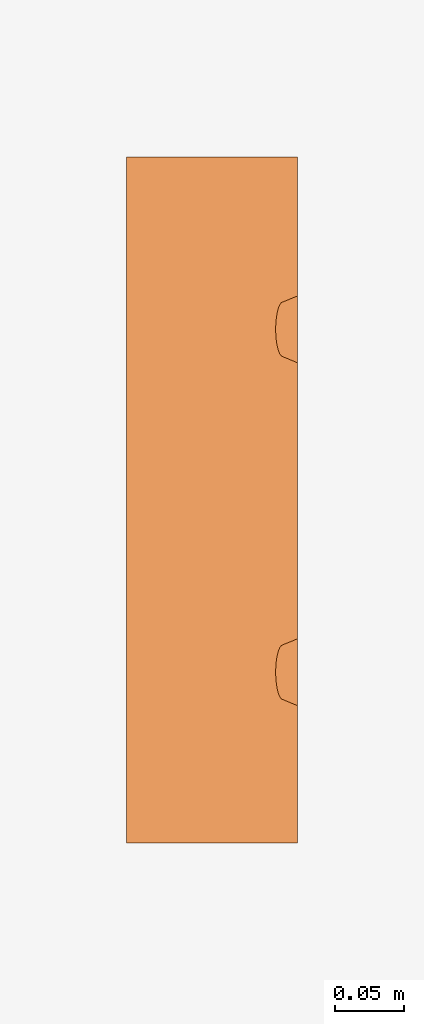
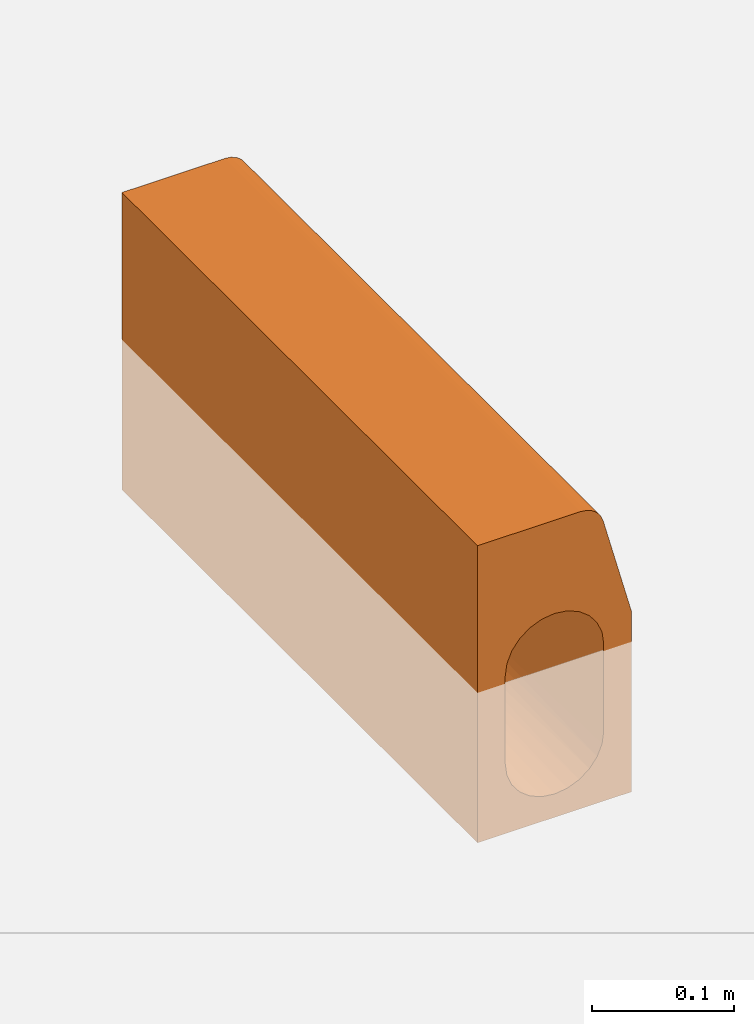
# One storey, part 2 of 2: 1 proxy.
"""IFC2X3 building model written with IfcOpenShell, lengths in millimetres."""

from ifc_helpers import new_model, entity, si_unit, converted_unit, direction, frame, origin, place, context, subcontext, project, spatial, faceted_brep, source, transform, mapped, material, element, save


model = new_model("IFC2X3")

# Units and contexts
model_context = context("Model", 3, precision=1e-06, world=origin(), true_north=direction((2.0, 6.12303176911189e-17, 1.0)))
context_of_model = context(None, 3, precision=1e-06, world=origin(), true_north=direction((2.0, 6.12303176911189e-17, 1.0)))
body_context = subcontext(model_context, "Body", "Model", "MODEL_VIEW")
ifc_project = project(units=[si_unit("LENGTHUNIT", "METRE", prefix="MILLI"), si_unit("AREAUNIT", "SQUARE_METRE", prefix="MILLI"), si_unit("VOLUMEUNIT", "CUBIC_METRE", prefix="MILLI"), converted_unit("PLANEANGLEUNIT", "DEGREE", entity("IfcRatioMeasure", 0.0174532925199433), si_unit("PLANEANGLEUNIT", "RADIAN"), dimensions=[0, 0, 0, 0, 0, 0, 0]), si_unit("TIMEUNIT", "SECOND")], contexts=[model_context, context_of_model])

# Site, building, storey
site_placement = place(None, origin())
site = spatial("IfcSite", under=ifc_project, at=site_placement, Name="Default", CompositionType="ELEMENT")
building_placement = place(site_placement, origin())
building = spatial("IfcBuilding", under=site, at=building_placement, CompositionType="ELEMENT")
storey_placement = place(building_placement, origin())
storey = spatial("IfcBuildingStorey", under=building, at=storey_placement, Name="Level 1", CompositionType="ELEMENT", Elevation=0.0)

# Proxy
ifc_material = material(Name="ACO Polymer Concrete.")
shared_shape = source(origin(), body_context, "Body", "Brep", [
    faceted_brep([(0.0, 354.453335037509, 65.0), (0.0, 352.209322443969, 45.0), (0.0, 396.645039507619, 45.0), (0.0, 394.453335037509, 65.0), (0.0, 357.13282696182, 75.0), (0.0, 355.134818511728, 70.176380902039), (0.0, 364.453335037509, 82.320508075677), (0.0, 393.77185156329, 70.1763809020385), (0.0, 391.773843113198, 75.0), (0.0, 388.59547066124, 79.1421356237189), (0.0, 379.629715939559, 84.3185165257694), (0.0, 369.276954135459, 84.3185165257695), (0.0, 374.453335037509, 85.0), (0.0, 384.453335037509, 82.3205080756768), (0.0, 360.311199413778, 79.1421356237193), (-62.5000096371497, 500.0, -130.0), (-28.2842808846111, 500.0, -98.2842712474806), (-20.0000096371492, 500.0, -104.641016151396), (-34.6410257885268, 500.0, -90.0), (-10.35277144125, 500.0, -108.637033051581), (-9.63714915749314e-06, 500.0, -110.0), (-40.0000096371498, 500.0, 5.0), (-40.0000096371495, 500.0, -70.0), (-62.5000096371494, 500.0, 125.0), (-38.6370426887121, 500.0, -80.3527618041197), (-38.6370426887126, 500.0, 15.3527618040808), (10.3527521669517, 500.0, -108.637033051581), (62.4999903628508, 500.0, -130.0), (19.9999903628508, 500.0, -104.641016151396), (28.2842616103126, 500.0, -98.28427124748), (34.6410065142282, 500.0, -90.0), (39.9999903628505, 500.0, -70.0), (62.4999903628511, 500.0, 25.0), (38.6370234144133, 500.0, -80.3527618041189), (39.9999903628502, 500.0, 5.0), (-28.2842808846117, 500.0, 33.2842712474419), (-34.6410257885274, 500.0, 25.0), (-20.0000096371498, 500.0, 39.6410161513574), (21.1258583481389, 500.0, 125.0), (-10.3527714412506, 500.0, 43.6370330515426), (39.478449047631, 500.0, 110.917561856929), (10.352752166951, 500.0, 43.6370330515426), (5.1763712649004, 500.0, 44.3185165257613), (-9.6371497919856e-06, 500.0, 45.0), (19.9999903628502, 500.0, 39.6410161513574), (15.1763712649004, 500.0, 41.6390246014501), (34.6410065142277, 500.0, 25.0), (31.4626340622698, 500.0, 29.1421356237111), (28.2842616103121, 500.0, 33.2842712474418), (39.3185068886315, 500.0, 10.1763809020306), (38.6370234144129, 500.0, 15.3527618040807), (36.6390149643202, 500.0, 20.1763809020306), (24.1421259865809, 500.0, 36.4626436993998), (30.6258583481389, 500.0, 122.454482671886), (34.5608871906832, 500.0, 119.435028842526), (37.5803410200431, 500.0, 115.499999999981), (26.0434202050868, 500.0, 124.352590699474), (-10.3527714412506, 0.0, 43.6370330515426), (-9.6371497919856e-06, 0.0, 45.0), (21.1258583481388, 0.0, 125.0), (-62.5000096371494, 0.0, 125.0), (10.352752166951, 0.0, 43.6370330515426), (39.4784490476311, 0.0, 110.917561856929), (-34.6410257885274, 0.0, 25.0), (-28.2842808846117, 0.0, 33.2842712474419), (-20.0000096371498, 0.0, 39.6410161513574), (-38.6370426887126, 0.0, 15.3527618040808), (15.1763712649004, 0.0, 41.6390246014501), (19.9999903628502, 0.0, 39.6410161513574), (30.6258583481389, 0.0, 122.454482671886), (26.0434202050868, 0.0, 124.352590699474), (34.5608871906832, 0.0, 119.435028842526), (37.5803410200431, 0.0, 115.499999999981), (28.2842616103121, 0.0, 33.2842712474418), (31.4626340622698, 0.0, 29.1421356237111), (62.4999903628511, 0.0, 25.0), (34.6410065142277, 0.0, 25.0), (36.6390149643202, 0.0, 20.1763809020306), (38.6370234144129, 0.0, 15.3527618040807), (39.3185068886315, 0.0, 10.1763809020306), (39.9999903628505, 0.0, 5.0), (24.142125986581, 0.0, 36.4626436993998), (-40.0000096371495, 0.0, -70.0), (-40.0000096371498, 0.0, 5.0), (-62.5000096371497, 0.0, -130.0), (-38.6370426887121, 0.0, -80.3527618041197), (-34.6410257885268, 0.0, -90.0), (-28.2842808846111, 0.0, -98.2842712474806), (-20.0000096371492, 0.0, -104.641016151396), (-10.35277144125, 0.0, -108.637033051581), (-9.63714915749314e-06, 0.0, -110.0), (62.4999903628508, 0.0, -130.0), (38.6370234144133, 0.0, -80.3527618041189), (34.6410065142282, 0.0, -90.0), (39.9999903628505, 0.0, -70.0), (10.3527521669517, 0.0, -108.637033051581), (28.2842616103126, 0.0, -98.28427124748), (19.9999903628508, 0.0, -104.641016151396), (39.9999903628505, 104.320227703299, 5.0), (39.9999903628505, 108.301552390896, 0.806065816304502), (39.9999903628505, 140.339432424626, 0.806065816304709), (39.9999903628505, 144.320757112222, 5.0), (39.9999903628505, 354.3202277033, 5.0), (39.9999903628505, 358.301552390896, 0.806065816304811), (39.9999903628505, 113.139955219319, -2.36093406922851), (39.9999903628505, 118.576562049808, -4.33155234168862), (39.9999903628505, 124.320492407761, -5.00035294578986), (39.9999903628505, 130.064422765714, -4.33155234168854), (39.9999903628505, 368.576562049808, -4.33155234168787), (39.9999903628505, 135.501029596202, -2.36093406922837), (39.9999903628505, 363.13995521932, -2.36093406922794), (39.9999903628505, 390.339432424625, 0.806065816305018), (39.9999903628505, 394.320757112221, 5.0), (39.9999903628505, 374.320492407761, -5.00035294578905), (39.9999903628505, 220.834780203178, -70.0), (39.9999903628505, 380.064422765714, -4.33155234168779), (39.9999903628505, 385.501029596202, -2.36093406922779), (36.9551716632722, 250.0, -85.3073372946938), (-39.2333192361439, 259.048058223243, -77.7940629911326), (-36.9551909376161, 250.0, -85.3073372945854), (39.2332999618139, 240.951941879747, -77.7940629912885), (31.7341239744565, 250.0, -94.3504571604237), (15.3073276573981, 250.0, -106.955181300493), (-5.2210573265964, 250.0, -109.657794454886), (-15.307346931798, 250.0, -106.955181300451), (5.22103805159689, 250.0, -109.657794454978), (24.3504475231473, 250.0, -101.734133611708), (-24.3504667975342, 250.0, -101.73413361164), (-31.7341432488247, 250.0, -94.3504571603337), (-40.0000096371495, 279.165219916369, -70.0), (-40.0000096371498, 220.83478055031, 5.0), (0.0, 104.453335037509, 65.0), (0.0, 102.209322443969, 45.0), (0.0, 146.645039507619, 45.0), (0.0, 144.453335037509, 65.0), (0.0, 107.13282696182, 75.0), (0.0, 105.134818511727, 70.1763809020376), (0.0, 114.453335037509, 82.320508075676), (0.0, 143.77185156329, 70.1763809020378), (0.0, 129.629715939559, 84.3185165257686), (0.0, 124.453335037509, 85.0), (0.0, 119.276954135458, 84.3185165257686), (0.0, 141.773843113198, 75.0), (0.0, 138.59547066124, 79.1421356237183), (0.0, 134.453335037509, 82.3205080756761), (0.0, 110.311199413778, 79.1421356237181), (39.6954785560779, 147.201210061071, 9.92627822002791), (62.4999903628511, 146.297049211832, 8.08197316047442), (62.4999903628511, 148.632737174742, 14.1760094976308), (38.6537235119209, 148.872914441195, 15.2902338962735), (62.4999903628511, 149.311585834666, 20.6669171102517), (62.4999903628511, 124.987762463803, -4.99144637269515), (62.4999903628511, 131.43319672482, -3.9671933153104), (62.4999903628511, 137.39391194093, -1.30963969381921), (62.4999903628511, 142.463695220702, 2.80010660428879), (36.8041709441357, 149.311585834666, 20.6669171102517), (62.4999903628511, 107.120951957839, 1.85644424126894), (62.4999903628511, 112.402818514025, -1.97690974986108), (62.4999903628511, 118.496854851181, -4.31259771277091), (39.7468589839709, 101.635498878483, 9.49293165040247), (62.4999903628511, 103.011205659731, 6.92622752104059), (62.4999903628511, 99.3293989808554, 19.3323769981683), (62.4999903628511, 100.35365203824, 12.8869427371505), (38.8848501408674, 99.9604934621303, 14.3791087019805), (37.3441059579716, 99.3293989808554, 19.3323769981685), (-24.3504667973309, 250.0, 36.734133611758), (-15.3073469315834, 250.0, 41.9551813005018), (-39.2392787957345, 258.370695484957, 12.7640038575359), (-36.9551909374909, 250.0, 20.30733729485), (-31.7341432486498, 250.0, 29.3504571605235), (14.0372744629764, 101.889153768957, 42.1464627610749), (9.54182317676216, 102.079758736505, 43.8452497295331), (28.9879182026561, 398.051522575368, 32.1653949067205), (25.7995367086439, 397.678681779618, 35.5676856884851), (18.5327257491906, 101.698548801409, 40.4476757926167), (39.6954785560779, 397.201210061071, 9.92627822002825), (-7.49088672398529, 249.427181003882, 44.2923244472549), (9.26194984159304, 396.764166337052, 43.9129298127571), (9.26194984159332, 146.764166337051, 43.9129298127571), (18.0204807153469, 397.115071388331, 40.7108096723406), (32.1762996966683, 398.424363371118, 28.7631041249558), (18.0204807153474, 147.11507138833, 40.7108096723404), (9.54182317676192, 352.079758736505, 43.8452497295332), (22.4931610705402, 101.393125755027, 37.7255605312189), (36.8041709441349, 399.311585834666, 20.6669171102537), (38.6537235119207, 398.872914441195, 15.2902338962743), (21.9100087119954, 397.396876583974, 38.1392476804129), (18.5327257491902, 351.698548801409, 40.4476757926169), (4.63097492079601, 396.704602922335, 44.4564649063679), (34.4902353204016, 398.867974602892, 24.7150106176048), (13.64121527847, 396.939618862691, 42.3118697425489), (29.6503505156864, 100.685095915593, 31.4151695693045), (26.4535963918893, 351.087702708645, 35.0034452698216), (25.7995367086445, 147.678681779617, 35.5676856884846), (26.4535963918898, 101.087702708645, 35.0034452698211), (32.847104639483, 100.28248912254, 27.8268938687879), (32.1762996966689, 148.424363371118, 28.763104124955), (35.0956052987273, 99.8059440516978, 23.5796354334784), (32.8471046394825, 350.28248912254, 27.8268938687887), (38.8848501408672, 349.96049346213, 14.3791087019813), (39.7468589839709, 351.635498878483, 9.49293165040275), (37.3441059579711, 349.329398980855, 19.33237699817), (21.1258583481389, 152.199845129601, 125.0), (62.4999903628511, 357.120951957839, 1.85644424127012), (62.4999903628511, 362.402818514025, -1.97690974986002), (62.4999903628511, 99.9653098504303, 25.0), (62.4999903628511, 349.329398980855, 19.3323769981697), (62.4999903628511, 349.96530985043, 25.0), (62.4999903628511, 148.836743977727, 25.0), (62.4999903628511, 350.35365203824, 12.8869427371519), (62.4999903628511, 353.011205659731, 6.92622752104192), (62.4999903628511, 374.987762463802, -4.99144637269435), (62.4999903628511, 368.496854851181, -4.31259771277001), (62.4999903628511, 381.43319672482, -3.96719331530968), (62.4999903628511, 387.39391194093, -1.30963969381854), (62.4999903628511, 392.463695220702, 2.80010660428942), (62.4999903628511, 398.632737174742, 14.1760094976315), (62.4999903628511, 396.297049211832, 8.08197316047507), (62.4999903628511, 398.836743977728, 25.0), (62.4999903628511, 399.311585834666, 20.6669171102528), (51.7820226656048, 104.453335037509, 65.0), (50.4995338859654, 105.034498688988, 69.7863132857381), (51.7820226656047, 144.453335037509, 65.0), (51.7820226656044, 354.453335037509, 65.0), (49.2915786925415, 142.162455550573, 74.2944634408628), (50.4995338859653, 143.87217138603, 69.7863132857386), (50.499533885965, 355.034498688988, 69.7863132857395), (49.2915786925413, 356.744214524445, 74.2944634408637), (49.2915786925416, 106.744214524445, 74.2944634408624), (48.2283590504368, 109.483120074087, 78.2624531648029), (47.3716654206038, 113.092040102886, 81.4596773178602), (46.771285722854, 117.361237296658, 83.7003248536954), (46.4621118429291, 122.042601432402, 84.8541774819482), (47.3716654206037, 135.814629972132, 81.4596773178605), (48.2283590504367, 139.423550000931, 78.2624531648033), (48.2283590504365, 359.483120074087, 78.2624531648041), (47.3716654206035, 363.092040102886, 81.4596773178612), (46.4621118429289, 372.042601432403, 84.8541774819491), (46.4621118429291, 126.864068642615, 84.8541774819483), (46.7712857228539, 131.545432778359, 83.7003248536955), (46.7712857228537, 367.361237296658, 83.7003248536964), (51.7820226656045, 394.453335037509, 65.0), (50.4995338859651, 393.87217138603, 69.7863132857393), (49.2915786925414, 392.162455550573, 74.2944634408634), (47.3716654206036, 385.814629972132, 81.4596773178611), (48.2283590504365, 389.423550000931, 78.2624531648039), (46.4621118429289, 376.864068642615, 84.8541774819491), (46.7712857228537, 381.54543277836, 83.7003248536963), (39.4784490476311, 423.900062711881, 110.917561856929), (32.6923254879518, 383.807890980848, 121.073713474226), (36.1995717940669, 348.576324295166, 117.566467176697), (38.1694726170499, 104.875634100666, 114.397333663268), (36.1995717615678, 151.423670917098, 117.566467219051), (28.3968435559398, 348.576326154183, 123.553711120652), (24.524901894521, 364.149902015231, 124.693488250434), (25.1444007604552, 238.971100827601, 124.570172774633), (38.0231925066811, 238.971095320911, 114.687928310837), (39.4784490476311, 304.399743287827, 110.917561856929), (38.3026441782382, 364.149900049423, 114.121454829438), (32.6923254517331, 116.192108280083, 121.073713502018), (35.4951440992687, 249.999998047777, 118.430753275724), (29.4139991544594, 250.0, 123.096979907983), (32.692325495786, 249.999999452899, 121.073713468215), (21.1258583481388, 423.900109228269, 125.0), (39.4784490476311, 152.199872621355, 110.917561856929), (28.3968435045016, 151.423674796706, 123.553711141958), (21.1258583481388, 304.39975384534, 125.0), (24.8258478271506, 104.875635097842, 124.636257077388)], [[[0, 1, 2, 3]], [[4, 5, 0, 6]], [[3, 7, 8, 9]], [[6, 0, 3, 10]], [[11, 6, 10, 12]], [[9, 13, 10, 3]], [[6, 14, 4]], [[15, 16, 17]], [[16, 15, 18]], [[17, 19, 15]], [[15, 19, 20]], [[21, 22, 15, 23]], [[24, 18, 15]], [[25, 21, 23]], [[22, 24, 15]], [[20, 26, 27, 15]], [[27, 28, 29]], [[28, 27, 26]], [[29, 30, 27]], [[31, 32, 27, 33]], [[30, 33, 27]], [[32, 31, 34]], [[35, 36, 23]], [[35, 23, 37]], [[23, 38, 39, 37]], [[40, 41, 42, 43]], [[43, 39, 38, 40]], [[40, 44, 45, 41]], [[36, 25, 23]], [[32, 46, 47, 48]], [[32, 34, 49, 50]], [[32, 50, 51, 46]], [[40, 32, 48, 52]], [[38, 53, 54, 55]], [[55, 40, 38]], [[38, 56, 53]], [[57, 58, 59, 60]], [[58, 61, 62, 59]], [[63, 64, 60]], [[65, 57, 60]], [[64, 65, 60]], [[60, 66, 63]], [[62, 61, 67, 68]], [[69, 70, 59, 71]], [[72, 71, 59, 62]], [[73, 74, 75, 62]], [[75, 76, 77, 78]], [[75, 78, 79, 80]], [[62, 68, 81, 73]], [[82, 83, 84]], [[82, 84, 85]], [[83, 66, 60, 84]], [[86, 84, 87]], [[84, 86, 85]], [[88, 87, 84]], [[89, 88, 84]], [[90, 89, 84, 91]], [[92, 93, 91]], [[91, 75, 94, 92]], [[95, 90, 91]], [[96, 97, 91]], [[91, 97, 95]], [[96, 91, 93]], [[94, 75, 80]], [[15, 84, 60, 23]], [[91, 84, 15, 27]], [[94, 80, 98, 99]], [[100, 101, 102, 103]], [[94, 104, 105]], [[104, 94, 99]], [[94, 105, 106]], [[107, 108, 94, 106]], [[107, 109, 110, 108]], [[109, 100, 103, 110]], [[31, 111, 112, 34]], [[108, 113, 31, 114]], [[115, 116, 31]], [[31, 116, 111]], [[115, 31, 113]], [[93, 92, 117]], [[118, 85, 119]], [[33, 120, 31]], [[93, 121, 96]], [[95, 97, 122]], [[89, 123, 124]], [[125, 20, 123]], [[126, 97, 96]], [[120, 33, 117]], [[90, 95, 125]], [[120, 117, 92]], [[127, 88, 124]], [[114, 31, 120, 94]], [[121, 93, 117]], [[30, 121, 117]], [[117, 33, 30]], [[28, 122, 126]], [[121, 30, 29]], [[28, 126, 29]], [[125, 95, 122]], [[122, 28, 26]], [[126, 96, 121]], [[125, 26, 20]], [[85, 118, 82]], [[88, 89, 124]], [[16, 128, 127]], [[119, 86, 128]], [[88, 127, 87]], [[85, 86, 119]], [[118, 22, 129, 82]], [[17, 127, 124]], [[128, 86, 87]], [[18, 119, 128]], [[20, 19, 123]], [[124, 19, 17]], [[123, 90, 125]], [[29, 126, 121]], [[127, 17, 16]], [[19, 124, 123]], [[128, 16, 18]], [[24, 119, 18]], [[120, 92, 94]], [[118, 119, 24]], [[26, 125, 122]], [[128, 87, 127]], [[89, 90, 123]], [[24, 22, 118]], [[122, 97, 126]], [[83, 82, 129, 22]], [[22, 21, 130, 83]], [[131, 132, 133, 134]], [[135, 136, 131, 137]], [[131, 134, 138, 139]], [[139, 137, 131]], [[140, 141, 137, 139]], [[142, 143, 144, 138]], [[138, 144, 139]], [[137, 145, 135]], [[146, 147, 148]], [[149, 148, 150]], [[107, 151, 152]], [[100, 153, 154]], [[153, 109, 152]], [[101, 154, 147]], [[150, 155, 149]], [[148, 149, 146]], [[153, 100, 109]], [[100, 154, 101]], [[109, 107, 152]], [[101, 147, 146]], [[107, 106, 151]], [[156, 157, 99]], [[157, 158, 104]], [[159, 160, 98]], [[161, 162, 163]], [[159, 162, 160]], [[156, 98, 160]], [[156, 99, 98]], [[105, 104, 158]], [[158, 106, 105]], [[161, 163, 164]], [[163, 162, 159]], [[157, 104, 99]], [[151, 106, 158]], [[165, 65, 64]], [[166, 57, 65]], [[167, 168, 66]], [[66, 168, 63]], [[169, 64, 63]], [[132, 58, 57]], [[61, 170, 67]], [[58, 132, 171]], [[172, 173, 48]], [[67, 174, 68]], [[49, 34, 175]], [[133, 132, 176, 1]], [[42, 41, 177]], [[1, 178, 133]], [[45, 44, 179]], [[47, 46, 180]], [[181, 178, 182]], [[174, 183, 68]], [[61, 58, 171]], [[176, 166, 39]], [[169, 36, 35]], [[36, 168, 25]], [[169, 63, 168]], [[165, 35, 37]], [[166, 37, 39]], [[43, 2, 39]], [[39, 2, 176]], [[52, 48, 173]], [[184, 51, 185]], [[186, 52, 173]], [[181, 182, 187]], [[1, 182, 178]], [[186, 179, 44]], [[43, 188, 2]], [[189, 180, 46, 184]], [[190, 177, 41]], [[73, 191, 74]], [[179, 190, 45]], [[192, 193, 187]], [[177, 188, 42]], [[187, 193, 181]], [[73, 81, 194]], [[76, 74, 195]], [[78, 77, 164]], [[170, 174, 67]], [[193, 192, 196]], [[194, 191, 73]], [[81, 68, 183]], [[197, 76, 195]], [[164, 77, 197]], [[198, 155, 196]], [[45, 190, 41]], [[194, 81, 183]], [[35, 165, 169]], [[163, 79, 78]], [[98, 80, 159]], [[79, 159, 80]], [[166, 176, 57]], [[199, 146, 149]], [[37, 166, 165]], [[167, 66, 83]], [[25, 167, 21]], [[165, 64, 169]], [[200, 101, 146]], [[78, 164, 163]], [[201, 149, 155]], [[195, 74, 191]], [[159, 79, 163]], [[192, 198, 196]], [[171, 170, 61]], [[166, 65, 165]], [[198, 201, 155]], [[48, 47, 172]], [[47, 180, 172]], [[51, 184, 46]], [[42, 188, 43]], [[132, 57, 176]], [[186, 44, 52]], [[25, 168, 167]], [[146, 199, 200]], [[167, 83, 130, 21]], [[102, 101, 200]], [[36, 169, 168]], [[49, 175, 185]], [[185, 51, 50]], [[185, 50, 49]], [[112, 175, 34]], [[2, 1, 176]], [[199, 149, 201]], [[76, 197, 77]], [[23, 60, 59, 202]], [[91, 158, 157]], [[158, 91, 151]], [[91, 157, 156, 75]], [[152, 151, 91]], [[203, 154, 153, 204]], [[153, 152, 91, 204]], [[162, 161, 75]], [[205, 75, 161]], [[162, 75, 160]], [[150, 148, 206, 207]], [[208, 150, 207]], [[148, 147, 209, 206]], [[75, 156, 160]], [[147, 154, 210, 209]], [[211, 212, 27]], [[27, 212, 204, 91]], [[213, 27, 214]], [[27, 213, 211]], [[215, 214, 27, 32]], [[216, 217, 32]], [[218, 219, 32]], [[32, 219, 216]], [[217, 215, 32]], [[203, 210, 154]], [[75, 205, 220, 62]], [[221, 62, 220]], [[222, 208, 207, 223]], [[224, 225, 226, 227]], [[225, 222, 223, 226]], [[62, 221, 228]], [[229, 230, 62]], [[62, 231, 232]], [[231, 62, 230]], [[229, 62, 228]], [[233, 234, 235, 236]], [[237, 238, 239, 240]], [[62, 232, 238, 237]], [[239, 233, 236, 240]], [[234, 224, 227, 235]], [[218, 32, 241]], [[40, 242, 241, 32]], [[40, 243, 242]], [[244, 245, 40]], [[246, 247, 40]], [[40, 247, 244]], [[237, 246, 40, 248]], [[245, 243, 40]], [[54, 249, 250]], [[72, 251, 252]], [[253, 254, 255]], [[256, 257, 258]], [[55, 54, 250]], [[258, 55, 250]], [[259, 252, 260]], [[53, 56, 253]], [[54, 53, 249]], [[72, 252, 71]], [[261, 249, 253]], [[55, 248, 40]], [[262, 259, 260, 249]], [[56, 38, 263]], [[62, 264, 251]], [[69, 265, 70]], [[254, 263, 266]], [[259, 265, 69]], [[265, 267, 70]], [[69, 71, 259]], [[262, 249, 261, 259]], [[202, 267, 255]], [[264, 257, 256]], [[253, 249, 53]], [[70, 267, 59]], [[252, 259, 71]], [[55, 258, 248]], [[257, 248, 258]], [[250, 260, 256]], [[250, 256, 258]], [[256, 252, 251]], [[255, 254, 266]], [[263, 254, 56]], [[56, 254, 253]], [[202, 255, 266]], [[255, 265, 261]], [[255, 261, 253]], [[259, 261, 265]], [[62, 251, 72]], [[256, 251, 264]], [[256, 260, 252]], [[249, 260, 250]], [[255, 267, 265]], [[59, 267, 202]], [[131, 220, 174, 170]], [[171, 132, 131]], [[220, 194, 183, 174]], [[205, 161, 164, 197]], [[220, 205, 195, 191]], [[136, 228, 221]], [[131, 221, 220]], [[137, 231, 230]], [[145, 230, 229]], [[135, 229, 228]], [[136, 221, 131]], [[135, 228, 136]], [[145, 137, 230]], [[229, 135, 145]], [[141, 231, 137]], [[141, 140, 232]], [[231, 141, 232]], [[144, 233, 239]], [[139, 239, 238]], [[134, 222, 225]], [[142, 224, 234]], [[224, 138, 225]], [[143, 234, 233]], [[140, 139, 238]], [[139, 144, 239]], [[144, 143, 233]], [[143, 142, 234]], [[224, 142, 138]], [[138, 134, 225]], [[232, 140, 238]], [[178, 134, 133]], [[134, 178, 181]], [[181, 193, 222, 134]], [[196, 208, 222, 193]], [[155, 150, 208, 196]], [[0, 223, 187, 182]], [[182, 1, 0]], [[223, 192, 187]], [[207, 206, 201, 198]], [[223, 207, 198, 192]], [[5, 227, 226]], [[0, 226, 223]], [[6, 240, 236]], [[14, 236, 235]], [[4, 235, 227]], [[5, 226, 0]], [[4, 227, 5]], [[14, 6, 236]], [[235, 4, 14]], [[11, 240, 6]], [[11, 12, 237]], [[240, 11, 237]], [[13, 244, 247]], [[10, 247, 246]], [[3, 241, 242]], [[8, 243, 245]], [[243, 7, 242]], [[9, 245, 244]], [[12, 10, 246]], [[10, 13, 247]], [[13, 9, 244]], [[9, 8, 245]], [[243, 8, 7]], [[7, 3, 242]], [[237, 12, 246]], [[3, 2, 188, 177]], [[3, 177, 190, 179]], [[179, 186, 241, 3]], [[218, 241, 180, 189]], [[241, 173, 172, 180]], [[184, 219, 218, 189]], [[175, 217, 216]], [[185, 216, 219]], [[115, 211, 213]], [[111, 214, 215]], [[214, 116, 213]], [[112, 215, 217]], [[219, 184, 185]], [[216, 185, 175]], [[214, 111, 116]], [[111, 215, 112]], [[116, 115, 213]], [[112, 217, 175]], [[115, 113, 211]], [[203, 204, 103]], [[204, 212, 110]], [[200, 210, 102]], [[206, 209, 199]], [[200, 209, 210]], [[203, 102, 210]], [[203, 103, 102]], [[108, 110, 212]], [[212, 113, 108]], [[206, 199, 201]], [[199, 209, 200]], [[204, 110, 103]], [[211, 113, 212]], [[40, 52, 44]], [[75, 74, 76]], [[108, 114, 94]], [[23, 202, 266, 263]], [[23, 263, 38]], [[237, 248, 257, 264]], [[237, 264, 62]], [[131, 170, 171]], [[205, 197, 195]], [[220, 191, 194]], [[241, 186, 173]]]),
])
proxy_placement = place(storey_placement, frame((-11161.4142635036, 335.882901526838, 0.0)))
element("IfcBuildingElementProxy", 1, at=proxy_placement, inside=storey, material=ifc_material, Name="Civil-Drainage-Channel-ACO-KerbDrain-HB255:7958 - KDHB255 channel - 500mm LG:7958 - KDHB255 channel - 500mm LG", ObjectType="7958 - KDHB255 channel - 500mm LG", CompositionType="ELEMENT", context=body_context, shape_type="MappedRepresentation", body=[
    mapped(shared_shape, transform((0.0, 0.0, 0.0), scale=1.0)),
])

save(model, "model.ifc")
